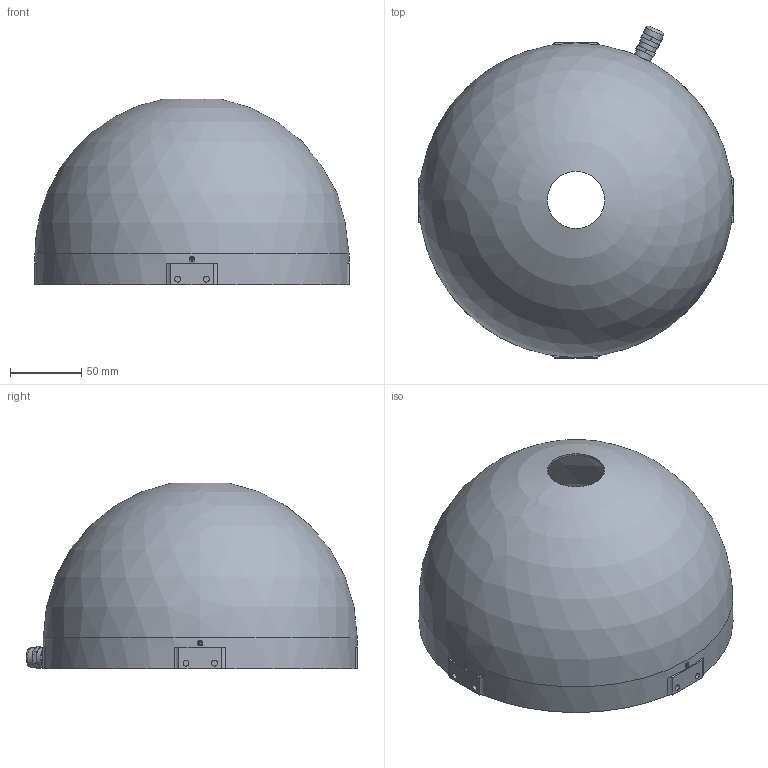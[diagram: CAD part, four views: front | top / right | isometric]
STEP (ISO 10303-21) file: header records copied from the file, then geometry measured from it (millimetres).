
FILE_DESCRIPTION( ( '' ), '1' );
FILE_NAME( 'L:/01_Produktserie LUMIMAX/DOM-Serie/DOM CD150/03_Konstruktion/DOM CD150 01_Download & Katalog/DOM CD150-DOM CD150FL.stp', '%{Zugriffsdatum}', ( 'Christian Koch' ), ( 'iiM AG' ), 'PSStep 13.0', 'Solid Edge', ' ' );
FILE_SCHEMA( ( 'AUTOMOTIVE_DESIGN { 1 0 10303 214 1 1 1 1 }' ) );
Length unit declared in the file: millimetre
Products named in the file (1): DOM CD150 Kuppel 111.0022.09.01
Bounding box: 221 x 232.57 x 130.17 mm (x, y, z)
Volume: 559832 mm3; surface area: 216203.9 mm2
Topology: 1 solids, 5 shells, 186 faces, 455 edges, 299 vertices
Faces by surface type: plane 99, cylinder 72, cone 8, torus 5, sphere 2
Full cylindrical faces by diameter (mm): 1.454 x4, 1.567 x4, 4.134 x8, 7 x1, 10 x1, 11.89 x1, 12.5 x2, 13.8 x2, 40 x1, 150 x1, 220 x1
Entity records: 7250 total; most frequent: CARTESIAN_POINT 1530, DIRECTION 890, ORIENTED_EDGE 804, EDGE_CURVE 402, AXIS2_PLACEMENT_3D 336, VERTEX_POINT 280, EDGE_LOOP 250, FACE_OUTER_BOUND 219
